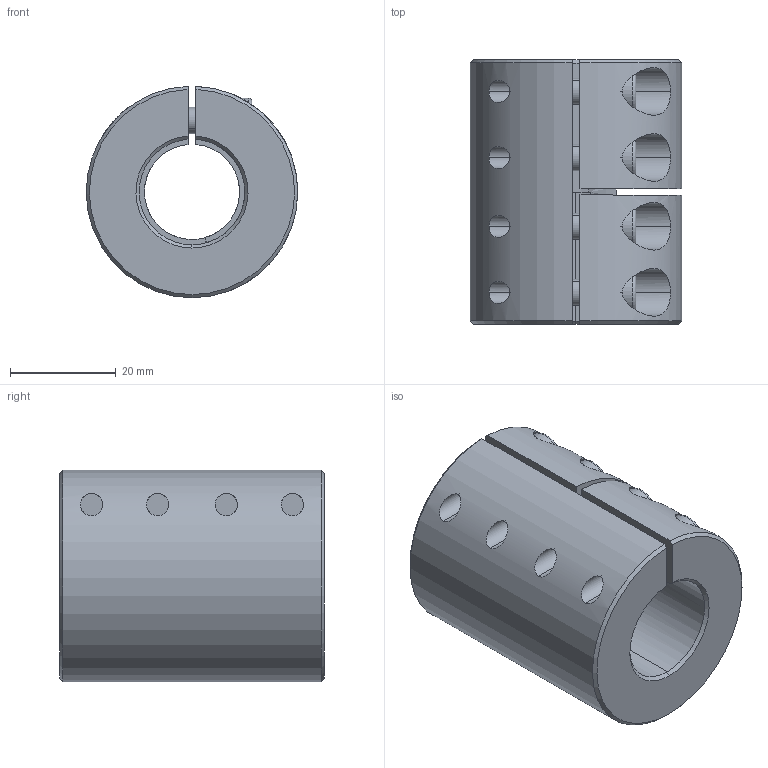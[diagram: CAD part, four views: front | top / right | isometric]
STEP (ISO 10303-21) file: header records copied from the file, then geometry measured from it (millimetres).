
FILE_DESCRIPTION (( 'STEP AP214' ), '1' );
FILE_NAME ('LL-B-D40L50-18-20½¨Ä£.STEP', '2022-07-22T00:27:59', ( '' ), ( '' ), 'SwSTEP 2.0', 'SolidWorks 2022', '' );
FILE_SCHEMA (( 'AUTOMOTIVE_DESIGN' ));
Length unit declared in the file: millimetre
Products named in the file (1): LL-B-D40L50-18-20膘耀
Bounding box: 40 x 50 x 39.99 mm (x, y, z)
Volume: 45833.8 mm3; surface area: 15411.7 mm2
Topology: 1 solids, 1 shells, 176 faces, 444 edges, 278 vertices
Faces by surface type: plane 84, cylinder 70, cone 14, torus 8
Entity records: 5801 total; most frequent: CARTESIAN_POINT 1475, DIRECTION 941, ORIENTED_EDGE 872, EDGE_CURVE 436, AXIS2_PLACEMENT_3D 368, VERTEX_POINT 278, EDGE_LOOP 208, LINE 205
